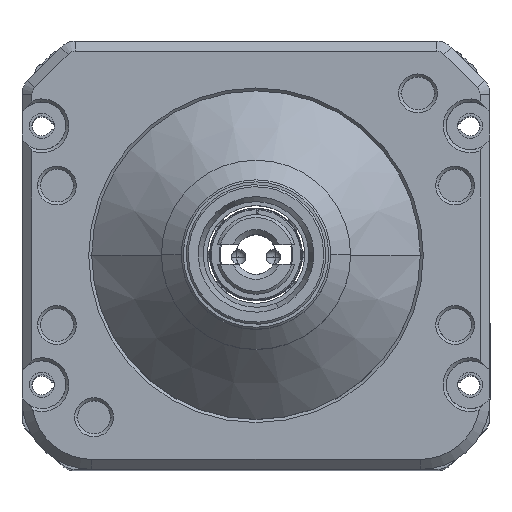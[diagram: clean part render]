
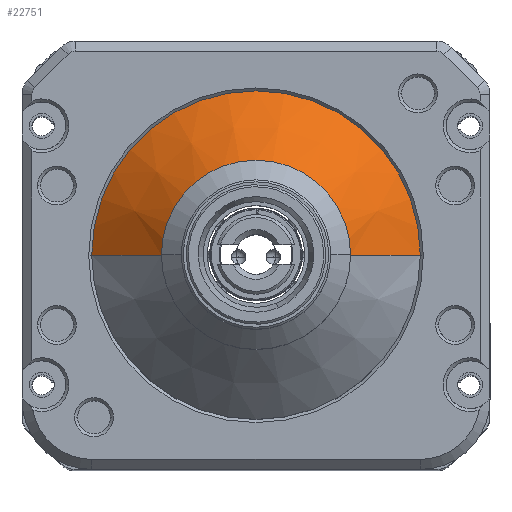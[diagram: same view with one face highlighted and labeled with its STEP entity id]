
A CAD part, top view. The second image highlights one B-rep face of the part: STEP entity #22751.
In plain terms, the highlighted conical face has half-angle 45 degrees and reference radius 9.5 mm.
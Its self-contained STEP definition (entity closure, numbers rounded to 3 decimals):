
#199 = EDGE_LOOP ( 'NONE', ( #25307, #24637, #12659, #16125 ) ) ;
#1307 = LINE ( 'NONE', #23358, #8206 ) ;
#1639 = DIRECTION ( 'NONE',  ( 0., 0., -1. ) ) ;
#2161 = CARTESIAN_POINT ( 'NONE',  ( -9.5, 0., 22. ) ) ;
#3763 = DIRECTION ( 'NONE',  ( -0.707, 0., -0.707 ) ) ;
#4953 = CIRCLE ( 'NONE', #31029, 16.5 ) ;
#5794 = CIRCLE ( 'NONE', #17757, 9.5 ) ;
#6814 = EDGE_CURVE ( 'NONE', #16734, #23764, #1307, .T. ) ;
#6863 = FACE_OUTER_BOUND ( 'NONE', #199, .T. ) ;
#8206 = VECTOR ( 'NONE', #3763, 1000. ) ;
#9237 = DIRECTION ( 'NONE',  ( 0., 0., 1. ) ) ;
#9637 = CARTESIAN_POINT ( 'NONE',  ( 9.5, 0., 22. ) ) ;
#12171 = CARTESIAN_POINT ( 'NONE',  ( 9.5, 0., 22. ) ) ;
#12659 = ORIENTED_EDGE ( 'NONE', *, *, #29534, .T. ) ;
#13033 = AXIS2_PLACEMENT_3D ( 'NONE', #32020, #1639, #26628 ) ;
#16125 = ORIENTED_EDGE ( 'NONE', *, *, #6814, .F. ) ;
#16164 = VERTEX_POINT ( 'NONE', #12171 ) ;
#16734 = VERTEX_POINT ( 'NONE', #2161 ) ;
#17016 = CARTESIAN_POINT ( 'NONE',  ( 16.5, 0., 15. ) ) ;
#17757 = AXIS2_PLACEMENT_3D ( 'NONE', #31758, #21784, #31921 ) ;
#19233 = CONICAL_SURFACE ( 'NONE', #13033, 9.5, 0.785 ) ;
#19234 = VECTOR ( 'NONE', #19595, 1000. ) ;
#19595 = DIRECTION ( 'NONE',  ( 0.707, 0., -0.707 ) ) ;
#19680 = EDGE_CURVE ( 'NONE', #16164, #24180, #31690, .T. ) ;
#21784 = DIRECTION ( 'NONE',  ( 0., 0., 1. ) ) ;
#22751 = ADVANCED_FACE ( 'NONE', ( #6863 ), #19233, .T. ) ;
#23358 = CARTESIAN_POINT ( 'NONE',  ( -9.5, 0., 22. ) ) ;
#23764 = VERTEX_POINT ( 'NONE', #24868 ) ;
#24180 = VERTEX_POINT ( 'NONE', #17016 ) ;
#24637 = ORIENTED_EDGE ( 'NONE', *, *, #19680, .T. ) ;
#24868 = CARTESIAN_POINT ( 'NONE',  ( -16.5, 0., 15. ) ) ;
#25041 = EDGE_CURVE ( 'NONE', #16164, #16734, #5794, .T. ) ;
#25307 = ORIENTED_EDGE ( 'NONE', *, *, #25041, .F. ) ;
#26628 = DIRECTION ( 'NONE',  ( -1., 0., 0. ) ) ;
#29162 = DIRECTION ( 'NONE',  ( 1., 0., 0. ) ) ;
#29534 = EDGE_CURVE ( 'NONE', #24180, #23764, #4953, .T. ) ;
#30564 = CARTESIAN_POINT ( 'NONE',  ( 0., 0., 15. ) ) ;
#31029 = AXIS2_PLACEMENT_3D ( 'NONE', #30564, #9237, #29162 ) ;
#31690 = LINE ( 'NONE', #9637, #19234 ) ;
#31758 = CARTESIAN_POINT ( 'NONE',  ( 0., 0., 22. ) ) ;
#31921 = DIRECTION ( 'NONE',  ( 1., 0., 0. ) ) ;
#32020 = CARTESIAN_POINT ( 'NONE',  ( 0., 0., 22. ) ) ;
